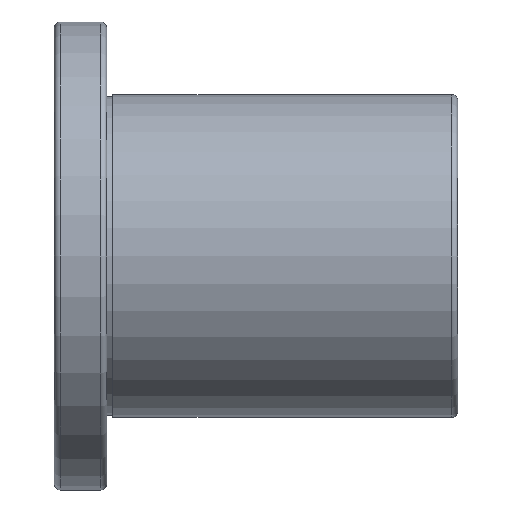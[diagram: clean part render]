
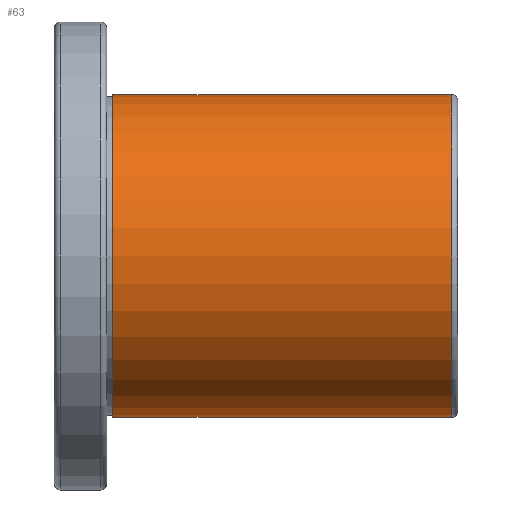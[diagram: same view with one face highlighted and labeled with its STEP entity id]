
A CAD part, front view. The second image highlights one B-rep face of the part: STEP entity #63.
In plain terms, the highlighted cylindrical face has radius 40 mm (diameter 80 mm), a full revolution.
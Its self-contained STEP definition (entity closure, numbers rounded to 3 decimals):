
#63 = ADVANCED_FACE( '', ( #146, #147 ), #148, .T. );
#146 = FACE_OUTER_BOUND( '', #269, .T. );
#147 = FACE_OUTER_BOUND( '', #270, .T. );
#148 = CYLINDRICAL_SURFACE( '', #271, 40. );
#269 = EDGE_LOOP( '', ( #398 ) );
#270 = EDGE_LOOP( '', ( #399 ) );
#271 = AXIS2_PLACEMENT_3D( '', #400, #401, #402 );
#398 = ORIENTED_EDGE( '', *, *, #549, .F. );
#399 = ORIENTED_EDGE( '', *, *, #550, .T. );
#400 = CARTESIAN_POINT( '', ( 56.4, 0., 0. ) );
#401 = DIRECTION( '', ( -1., 0., 0. ) );
#402 = DIRECTION( '', ( 0., 1., 0. ) );
#549 = EDGE_CURVE( '', #618, #618, #619, .F. );
#550 = EDGE_CURVE( '', #620, #620, #621, .F. );
#618 = VERTEX_POINT( '', #707 );
#619 = CIRCLE( '', #708, 40. );
#620 = VERTEX_POINT( '', #709 );
#621 = CIRCLE( '', #710, 40. );
#707 = CARTESIAN_POINT( '', ( 14.5, 0., -40. ) );
#708 = AXIS2_PLACEMENT_3D( '', #800, #801, #802 );
#709 = CARTESIAN_POINT( '', ( 98.5, 40., 0. ) );
#710 = AXIS2_PLACEMENT_3D( '', #803, #804, #805 );
#800 = CARTESIAN_POINT( '', ( 14.5, 0., 0. ) );
#801 = DIRECTION( '', ( 1., 0., 0. ) );
#802 = DIRECTION( '', ( 0., 0., -1. ) );
#803 = CARTESIAN_POINT( '', ( 98.5, 0., 0. ) );
#804 = DIRECTION( '', ( 1., 0., 0. ) );
#805 = DIRECTION( '', ( 0., 0., -1. ) );
